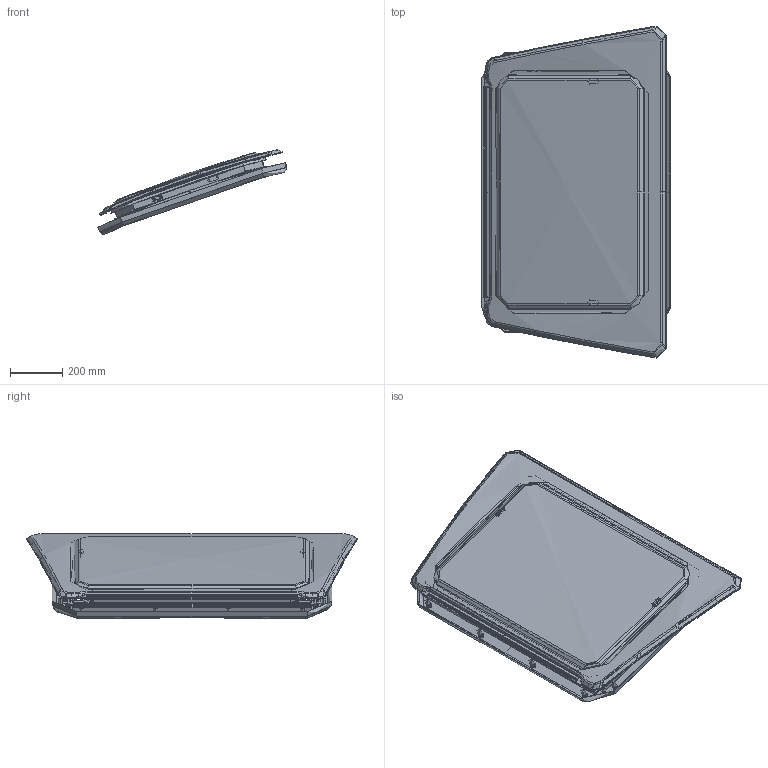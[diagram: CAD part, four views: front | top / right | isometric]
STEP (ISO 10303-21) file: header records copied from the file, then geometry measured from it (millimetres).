
FILE_DESCRIPTION (( 'STEP AP214' ), '1' );
FILE_NAME ('房车曲面前顶窗 600900 (外发文件).STEP', '2021-09-10T08:48:05', ( '' ), ( '' ), 'SwSTEP 2.0', 'SolidWorks 2017', '' );
FILE_SCHEMA (( 'AUTOMOTIVE_DESIGN' ));
Length unit declared in the file: millimetre
Products named in the file (72): _X2_591A91CD8F9351FA_X0_-470959; _X2_628A624B_X0_-171580; _X2_5B8988C567F1FF0C5B89-359824; _X2_767E89365E18578B6750_-53581; _X2_94F094FE80F66761_X0_-393981; _X2_628A624B_X0_-163141; _X2_628A624B_X0_-144140; _X2_628A624B_X0_-306338; _X2_5B8988C567F1FF0C5B89-366190; 房车曲面前顶窗 600900 (外发文件); _X2_767E89365E18578B6750_-57056; _X2_5B8988C567F1FF0C5B89-361878; _X2_628A624B_X0_-280244; _X2_767E89365E1862C96746-109307; _X2_628A624B_X0_-234695; _X2_5B8988C567F1FF0C5B89-362022; _X2_767E89365E1862C96746-106428; _X2_5B8988C567F1FF0C5B89-362310; _X2_628A624B_X0_-140662; _X2_88C5997058F3_X0_-359680; _X2_628A624B_X0_-298006; _X2_5B8988C567F1FF0C5B89-359968; _X2_628A624B_X0_-303535; _X2_73BB748359164FA76570636E4F1; _X2_628A624B_X0_-262701; _X2_591A91CD8F9351FA_X0_-471391; _X2_628A624B_X0_-182023; _X2_767E89365E1862C96746-116696; _X2_628A624B_X0_-155410; _X2_628A624B_X0_-247385; _X2_94F094FE80F66761_X0_-425399; __X2_8F668EAB989D593488C5997067; _X2_628A624B_X0_-149101; _X2_88C5997058F3_X0_-327927; _X2_5B8988C567F1FF0C5B89-362166; _X2_88C5997058F3_X0_-326276; _X2_628A624B_X0_-275057; _X2_5B8988C567F1FF0C5B89-360731; _X2_591A91CD8F9351FA_X0_-471103; _X2_628A624B_X0_-316781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
Assembly tree (71 placements, depth 3):
  房车曲面前顶窗 600900 (外发文件)
    _X2_8F668EAB989D593488C59970677_ASM
      _X2_767E89365E18578B6750_-53581
      _X2_767E89365E18578B6750_-57056
      _X2_767E89365E18578B6750_-59897
      PRT0001
      _X2_767E89365E1862C967467-72233
      _X2_767E89365E1862C967467-73884
      _X2_767E89365E1862C967467-96100
      _X2_767E89365E1862C96746-103240
      _X2_767E89365E1862C96746-106428
      _X2_767E89365E1862C96746-109307
      _X2_767E89365E1862C96746-116696
      _X2_578B67507AEF59348FDE63A54EF
      _X2_628A624B_X0_-130875
      _X2_628A624B_X0_-134353
      _X2_628A624B_X0_-140662
      _X2_628A624B_X0_-144140
      _X2_628A624B_X0_-149101
      _X2_628A624B_X0_-155410
      _X2_628A624B_X0_-163141
      _X2_628A624B_X0_-168102
      _X2_628A624B_X0_-171580
      _X2_628A624B_X0_-182023
      _X2_628A624B_X0_-193861
      _X2_628A624B_X0_-222989
      _X2_628A624B_X0_-224887
      _X2_628A624B_X0_-228176
      _X2_628A624B_X0_-229166
      _X2_628A624B_X0_-234695
      _X2_628A624B_X0_-236162
      _X2_628A624B_X0_-247385
      _X2_628A624B_X0_-250863
      _X2_628A624B_X0_-262701
      _X2_628A624B_X0_-275057
      _X2_628A624B_X0_-276955
      _X2_628A624B_X0_-280244
      _X2_628A624B_X0_-298006
      _X2_628A624B_X0_-303535
      _X2_628A624B_X0_-306338
      _X2_628A624B_X0_-316781
      _X2_88C5997058F3_X0_-326276
      _X2_88C5997058F3_X0_-327927
      _X2_88C5997058F3_X0_-331115
      _X2_88C5997058F3_X0_-359680
      _X2_5B8988C567F1FF0C5B89-359824
      _X2_5B8988C567F1FF0C5B89-359968
      _X2_5B8988C567F1FF0C5B89-360731
      _X2_5B8988C567F1FF0C5B89-361878
      _X2_5B8988C567F1FF0C5B89-362022
      _X2_5B8988C567F1FF0C5B89-362166
      _X2_5B8988C567F1FF0C5B89-362310
      _X2_5B8988C567F1FF0C5B89-366190
      _X2_94F094FE80F66761_X0_-386252
      _X2_94F094FE80F66761_X0_-393981
      _X2_94F094FE80F66761_X0_-404424
      _X2_94F094FE80F66761_X0_-412153
      _X2_94F094FE80F66761_X0_-422596
      _X2_94F094FE80F66761_X0_-425399
      _X2_94F094FE80F66761_X0_-425823
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Bounding box: 720.55 x 1264.99 x 321.25 mm (x, y, z)
Topology: 68 solids, 89 shells, 9294 faces, 24581 edges, 15311 vertices
Faces by surface type: cylinder 3200, plane 2432, bspline 1744, torus 1309, cone 383, sphere 226
Full cylindrical faces by diameter (mm): 4.7 x2
Entity records: 526698 total; most frequent: CARTESIAN_POINT 226903, ORIENTED_EDGE 48197, DIRECTION 35203, EDGE_CURVE 24182, VERTEX_POINT 15171, AXIS2_PLACEMENT_3D 13711, EDGE_LOOP 9693, B_SPLINE_CURVE_WITH_KNOTS 9294
